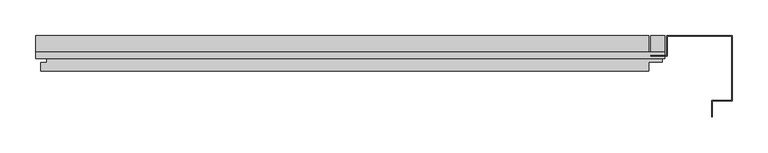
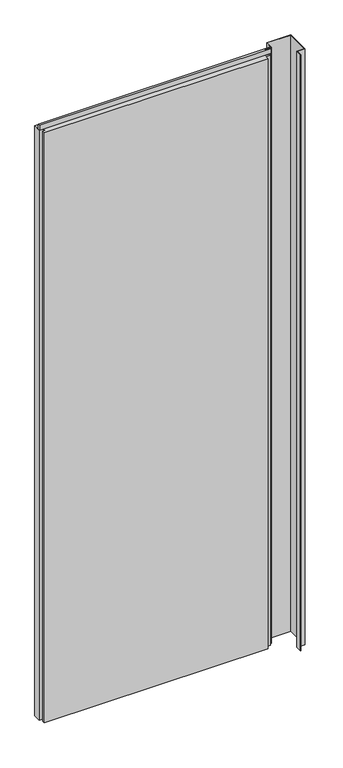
"""IFC4 building model written with IfcOpenShell, lengths in millimetres: plate geometry, Trimo_Qbiss Screen_Normal Panel-VERTICAL : HR - FB."""

from ifc_helpers import new_model, si_unit, frame, origin, place, context, project, spatial, polyline, outline, extrude, source, transform, mapped, element, save


def plate_5637677f(model_context):
    return source(origin(), model_context, "Body", "SweptSolid", [
        extrude(outline(polyline([(456.0, 97.0), (437.0, 97.0), (437.0, 126.0), (456.0, 126.0), (456.0, 97.0)])), frame((0.0, 0.0, 12.5), z_axis=(0.0, 0.0, 1.0), x_axis=(1.0, 0.0, 0.0)), (0.0, 0.0, 1.0), 2375.0),
        extrude(outline(polyline([(-425.0, 93.9), (-425.0, 102.6), (456.0, 102.6), (456.0, 93.9), (-425.0, 93.9)])), frame((0.0, 0.0, 2390.5), z_axis=(0.0, 0.0, 1.0), x_axis=(1.0, 0.0, 0.0)), (0.0, 0.0, 1.0), 19.0),
        extrude(outline(polyline([(434.0, 97.0), (452.5, 97.0), (452.5, 89.0), (434.0, 89.0), (434.0, 76.0), (-418.0, 76.0), (-418.0, 88.0), (-409.5, 88.0), (-409.5, 98.0), (-425.0, 98.0), (-425.0, 126.0), (434.0, 126.0), (434.0, 97.0)])), frame((0.0, 0.0, 12.5), z_axis=(0.0, 0.0, 1.0), x_axis=(1.0, 0.0, 0.0)), (0.0, 0.0, 1.0), 2375.0),
        extrude(outline(polyline([(459.0, 97.8), (459.0, 126.0), (551.0, 126.0), (551.0, 34.0), (522.8, 34.0), (522.8, 12.0), (522.0, 12.0), (522.0, 34.8), (550.2, 34.8), (550.2, 125.2), (459.8, 125.2), (459.8, 97.0), (437.0, 97.0), (437.0, 97.8), (459.0, 97.8)])), frame((0.0, 0.0, 12.5), z_axis=(0.0, 0.0, 1.0), x_axis=(1.0, 0.0, 0.0)), (0.0, 0.0, 1.0), 2400.0),
    ])


if __name__ == "__main__":
    model = new_model("IFC4")
    model_context = context("Model", 3, world=origin())
    ifc_project = project(units=[si_unit("LENGTHUNIT", "METRE", prefix="MILLI")], contexts=[model_context])
    site = spatial("IfcSite", under=ifc_project)
    building = spatial("IfcBuilding", under=site)
    placement = place(None, origin())
    plate_shape = plate_5637677f(model_context)
    element("IfcPlate", 1, ObjectType="Trimo_Qbiss Screen_Normal Panel-VERTICAL : HR - FB", at=placement, inside=building, context=model_context, shape_type="MappedRepresentation", body=[
        mapped(plate_shape, transform((0.0, 0.0, 0.0), x_axis=(1.0, 0.0, 0.0), y_axis=(0.0, 1.0, 0.0), z_axis=(0.0, 0.0, 1.0))),
    ])
    save(model, "model.ifc")
